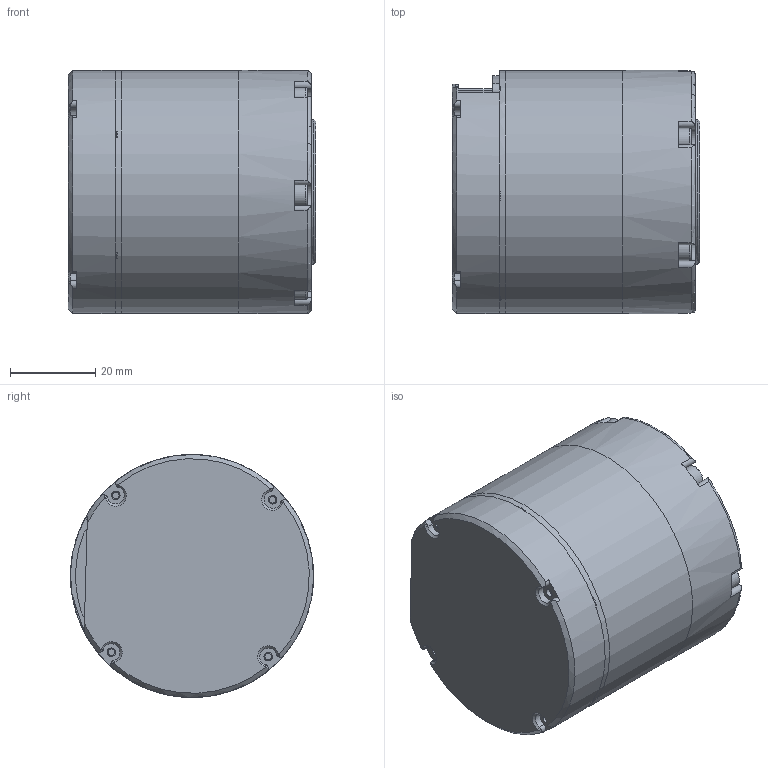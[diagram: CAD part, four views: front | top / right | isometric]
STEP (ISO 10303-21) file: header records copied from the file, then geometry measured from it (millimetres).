
FILE_DESCRIPTION(/* description */ (''),/* implementation_level */ '2;1');
FILE_NAME(/* name */ '',/* time_stamp */ '2024-12-27T15:13:15+08:00',/* author */ ('simmi'),/* organization */ (''),/* preprocessor_version */ 'ST-DEVELOPER v19.2',/* originating_system */ 'Autodesk Inventor 2024',/* authorisation */ '');
FILE_SCHEMA (('AUTOMOTIVE_DESIGN { 1 0 10303 214 3 1 1 }'));
Length unit declared in the file: millimetre
Products named in the file (1): 4315-8_简化_241227
Bounding box: 58 x 56.99 x 56.98 mm (x, y, z)
Volume: 118713 mm3; surface area: 28911.8 mm2
Topology: 1 solids, 3 shells, 695 faces, 1819 edges, 1175 vertices
Faces by surface type: plane 284, cylinder 233, cone 112, torus 42, bspline 24
Full cylindrical faces by diameter (mm): 1.567 x10, 2 x4, 2.013 x4, 2.459 x12, 3 x6, 4 x3, 4.7 x5, 5 x2, 5.5 x9, 5.7 x3, 6 x1, 8 x1, 9 x1, 9.6 x1, 11 x1, 32 x1, 34 x1, 35 x1, 57 x3
Entity records: 22973 total; most frequent: CARTESIAN_POINT 5768, DIRECTION 3689, ORIENTED_EDGE 3630, EDGE_CURVE 1815, AXIS2_PLACEMENT_3D 1519, VERTEX_POINT 1175, CIRCLE 807, EDGE_LOOP 788
